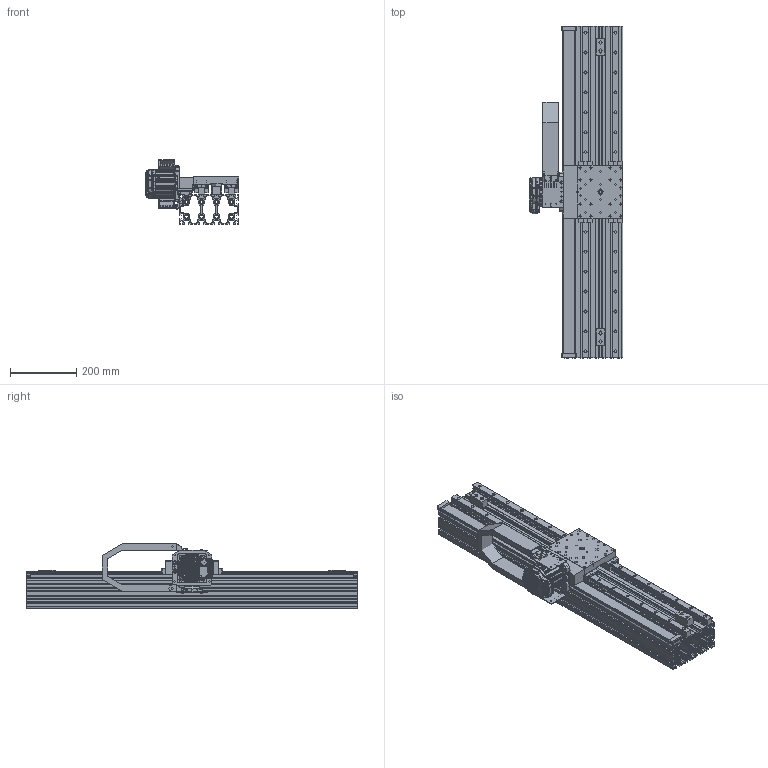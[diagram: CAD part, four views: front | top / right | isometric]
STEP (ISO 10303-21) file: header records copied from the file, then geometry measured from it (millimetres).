
FILE_DESCRIPTION( ( '' ), ' ' );
FILE_NAME( '/vol/tmp/translate-1472463827279350504/5c7ea45a88742517065b152c.step', '2019-03-05T16:31:29', ( '' ), ( '' ), ' ', ' ', ' ' );
FILE_SCHEMA( ( 'AUTOMOTIVE_DESIGN { 1 0 10303 214 1 1 1 1 }' ) );
Length unit declared in the file: metre
Products named in the file (104): RAIL FASTENERS <8>; 102684-001 BOSCH 10mm T-BLOCK M5; 100001-8065 M5-.80 X 25 ALLOY SHCS; 20mm BEARING RAIL CAP; RAIL FASTENERS <15>; RAIL FASTENERS <9>; RAIL FASTENERS <1>; RAIL FASTENERS <13>; RAIL FASTENERS <10>; RAIL FASTENERS <4>; RAIL FASTENERS <14>; RAIL FASTENERS <2>; TRAY FASTENERS <5>; #8697; #8705; RAIL FASTENERS <12>; RAIL FASTENERS <3>; RAIL FASTENERS <16>; TRAY FASTENERS <3>; RAIL FASTENERS <17>; RAIL FASTENERS <7>; RAIL FASTENERS <6>; RAIL FASTENERS <5>; RAIL FASTENERS <11>; TRAY FASTENERS <4>; TRAY FASTENERS <2>; TRAY FASTENERS <1>; 104587-001 SBL-M DYNAMIC BEARING ASSEMBLY <2>; 103126-001 SBL-M BEARING SHAFT; 102638-005 5202 SHIELDED DOUBLE ROW BALL BEARING; RAIL <1>; 102732-1000 20mm STANDARD GUIDE RAIL; 106888-001 20mm RAIL COVER; POLYURETHANE BUMPLER <1>; 100003-015 3/8 SS FLAT WASHER; 100001-028 3/8-16 SS SOCKET HEAD CAP SCREW; 100033-001 3/8-16 POLYURETHANE BUMPER; RAIL <2>; TRAY <1>; 102656-1000 SBL-M BELT TRAY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
Assembly tree (278 placements, depth 5):
  Assem1
    102977-001 LINKS
    102567-001 T5 X 32mm BELTING
    1000 CHASSIS <1>
      102927-1000  90-SERIES PROFILE 90X180
      TRAY <1>
        102656-1000 SBL-M BELT TRAY
        102610-005 VHB TAPE 1-1/4 WIDE
        102567-001 T5 X 32mm BELTING
        TRAY FASTENERS <2>
          #8705
          #8697
        TRAY FASTENERS <1>
          #8697
          #8705
        TRAY FASTENERS <3>
          #8697
          #8705
        TRAY FASTENERS <5>
          #8697
          #8705
        TRAY FASTENERS <4>
          #8705
          #8697
      RAIL <2>
        106888-001 20mm RAIL COVER
        102732-1000 20mm STANDARD GUIDE RAIL
        RAIL FASTENERS <12>
          20mm BEARING RAIL CAP
          102684-001 BOSCH 10mm T-BLOCK M5
          100001-8065 M5-.80 X 25 ALLOY SHCS
        RAIL FASTENERS <10>
          20mm BEARING RAIL CAP
          102684-001 BOSCH 10mm T-BLOCK M5
          100001-8065 M5-.80 X 25 ALLOY SHCS
        RAIL FASTENERS <17>
          20mm BEARING RAIL CAP
          102684-001 BOSCH 10mm T-BLOCK M5
          100001-8065 M5-.80 X 25 ALLOY SHCS
        RAIL FASTENERS <5>
          20mm BEARING RAIL CAP
          102684-001 BOSCH 10mm T-BLOCK M5
          100001-8065 M5-.80 X 25 ALLOY SHCS
        RAIL FASTENERS <14>
          20mm BEARING RAIL CAP
          102684-001 BOSCH 10mm T-BLOCK M5
          100001-8065 M5-.80 X 25 ALLOY SHCS
        RAIL FASTENERS <4>
          100001-8065 M5-.80 X 25 ALLOY SHCS
          102684-001 BOSCH 10mm T-BLOCK M5
          20mm BEARING RAIL CAP
        RAIL FASTENERS <7>
          100001-8065 M5-.80 X 25 ALLOY SHCS
          20mm BEARING RAIL CAP
          102684-001 BOSCH 10mm T-BLOCK M5
        RAIL FASTENERS <9>
          20mm BEARING RAIL CAP
          100001-8065 M5-.80 X 25 ALLOY SHCS
          102684-001 BOSCH 10mm T-BLOCK M5
        RAIL FASTENERS <16>
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Bounding box: 282.42 x 1000 x 195.3 mm (x, y, z)
Topology: 246 solids, 251 shells, 9932 faces, 25327 edges, 16094 vertices
Faces by surface type: plane 4383, cylinder 2711, bspline 1034, torus 905, cone 716, sphere 141, extrusion 40, revolution 2
Full cylindrical faces by diameter (mm): 0.152 x1, 2.2 x31, 2.261 x25, 2.44 x25, 2.47 x4, 2.5 x40, 2.6 x8, 2.66 x8, 2.997 x4, 3 x20, 3.175 x1, 3.184 x1, 3.2 x4, 3.3 x5, 3.4 x2, 3.454 x5, 4 x2, 4.166 x5, 4.2 x13, 4.216 x16, 4.5 x7, 5 x66, 5.004 x60, 5.156 x5, 5.284 x1, 5.5 x60, 5.563 x12, 5.6 x4, 5.85 x8, 6 x8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
Entity records: 361471 total; most frequent: CARTESIAN_POINT 140989, ORIENTED_EDGE 33806, DIRECTION 33643, EDGE_CURVE 16903, AXIS2_PLACEMENT_3D 13361, VERTEX_POINT 11151, EDGE_LOOP 8556, FACE_OUTER_BOUND 7744
